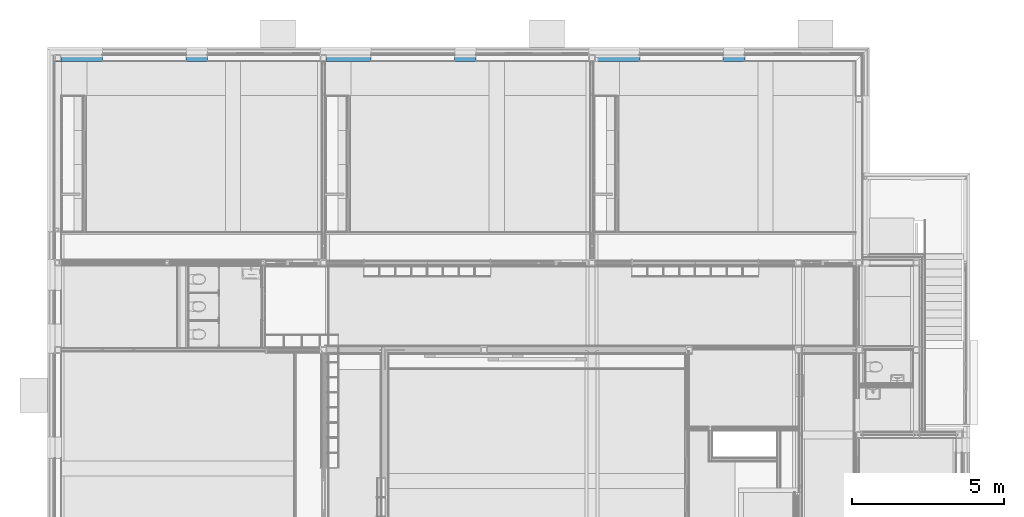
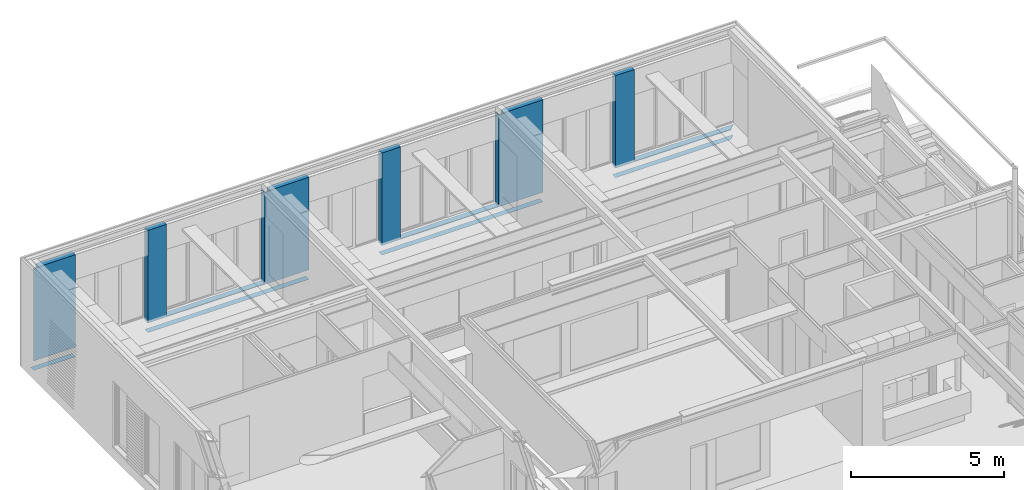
# One storey, part 86 of 165: 1 building element part, 11 openings, 1 element without a shape of its own.
"""IFC2X3 building model written with IfcOpenShell, lengths in millimetres."""

from ifc_helpers import new_model, entity, si_unit, converted_unit, derived_unit, money_unit, direction, frame, origin_with_axes, place, context, subcontext, project, spatial, faceted_brep, material, type_object, element, aggregate, save


model = new_model("IFC2X3")

# Units and contexts
model_context = context("Model", 3, precision=0.01, world=origin_with_axes(), true_north=direction((0.0, 1.0)))
body_context = subcontext(model_context, "Body", "Model", "MODEL_VIEW")
ifc_project = project(units=[si_unit("LENGTHUNIT", "METRE", prefix="MILLI"), si_unit("AREAUNIT", "SQUARE_METRE"), si_unit("VOLUMEUNIT", "CUBIC_METRE"), converted_unit("PLANEANGLEUNIT", "DEGREE", entity("IfcPlaneAngleMeasure", 0.0174532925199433), si_unit("PLANEANGLEUNIT", "RADIAN"), dimensions=[0, 0, 0, 0, 0, 0, 0]), money_unit("EUR"), converted_unit("TIMEUNIT", "Year", entity("IfcTimeMeasure", 31556926.0), si_unit("TIMEUNIT", "SECOND"), dimensions=[0, 0, 1, 0, 0, 0, 0]), si_unit("MASSUNIT", "GRAM", prefix="KILO"), si_unit("THERMODYNAMICTEMPERATUREUNIT", "DEGREE_CELSIUS"), si_unit("LUMINOUSINTENSITYUNIT", "LUMEN"), si_unit("ENERGYUNIT", "JOULE", prefix="MEGA"), derived_unit("THERMALCONDUCTANCEUNIT", [(si_unit("POWERUNIT", "WATT"), 1), (si_unit("LENGTHUNIT", "METRE"), -1), (si_unit("THERMODYNAMICTEMPERATUREUNIT", "KELVIN"), -1)]), derived_unit("SPECIFICHEATCAPACITYUNIT", [(si_unit("ENERGYUNIT", "JOULE"), 1), (si_unit("MASSUNIT", "GRAM", prefix="KILO"), -1), (si_unit("THERMODYNAMICTEMPERATUREUNIT", "KELVIN"), -1)]), derived_unit("MASSDENSITYUNIT", [(si_unit("MASSUNIT", "GRAM", prefix="KILO"), 1), (si_unit("VOLUMEUNIT", "CUBIC_METRE"), -1)])], contexts=[model_context])

# Site, building, storey
site_placement = place(None, origin_with_axes())
site = spatial("IfcSite", under=ifc_project, at=site_placement, Name="Site", CompositionType="ELEMENT")
building_placement = place(site_placement, origin_with_axes())
building = spatial("IfcBuilding", under=site, at=building_placement, Name="Naam gebouw", CompositionType="ELEMENT")
storey_placement = place(building_placement, origin_with_axes())
storey = spatial("IfcBuildingStorey", under=building, at=storey_placement, Name="Begane grond", CompositionType="ELEMENT", Elevation=0.0)

# Wall, openings, building element part
wall_type = type_object("IfcWallType", Name="21 Buitenwand spouwmuur 464", PredefinedType="NOTDEFINED")
wall_placement = place(storey_placement, frame((0.0, 29175.0, -485.0), z_axis=(0.0, 0.0, 1.0), x_axis=(1.0, 0.0, 0.0)))
wall = element("IfcWall", 1, at=wall_placement, inside=storey, type_object=wall_type, Name="21_Wand-x")
opening_1_placement = place(wall_placement, frame((24792.49942456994, 0.0, 415.0000443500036), z_axis=(0.0, 0.0, 1.0), x_axis=(1.0, 0.0, 0.0)))
element("IfcOpeningElement", 2, at=opening_1_placement, cuts=wall, Name="_Merk AB2", context=body_context, shape_type="Brep", body=[
    faceted_brep([(-2057.500000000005, 0.0, 2679.999942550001), (1807.500575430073, 0.0, 2679.999942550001), (2057.499999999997, 249.9994245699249, 2679.999942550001), (2057.499999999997, 251.0000000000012, 2679.999942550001), (-2057.500000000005, 251.0000000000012, 2679.999942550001), (-2057.500000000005, 0.0, 3669.999953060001), (1807.500575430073, 0.0, 3669.999953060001), (1592.500575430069, -214.9999999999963, 3669.999953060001), (1592.500575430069, -214.9999999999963, 2679.999942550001), (1592.500575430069, -214.9999999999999, 0.0), (2057.499999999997, 249.9994245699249, 0.0), (2057.499999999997, 251.0000000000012, 0.0), (-2057.500000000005, 251.0000000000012, 0.0), (-2057.500000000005, -214.9999999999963, 2679.999942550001), (-2057.500000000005, -214.9999999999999, 0.0), (-2057.500000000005, -214.9999999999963, 3669.999953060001)], [[[0, 1, 2, 3, 4]], [[1, 0, 5, 6]], [[2, 1, 6, 7, 8, 9, 10]], [[10, 11, 3, 2]], [[12, 4, 3, 11]], [[13, 0, 4, 12, 14]], [[0, 13, 15, 5]], [[6, 5, 15, 7]], [[13, 8, 7, 15]], [[8, 13, 14, 9]], [[9, 14, 12, 11, 10]]]),
])
opening_2_placement = place(wall_placement, frame((11799.99942456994, 0.0, 475.0), z_axis=(0.0, 0.0, 1.0), x_axis=(1.0, 0.0, 0.0)))
element("IfcOpeningElement", 3, at=opening_2_placement, cuts=wall, Name="_Merk AF", context=body_context, shape_type="Brep", body=[
    faceted_brep([(1375.0, 0.0, -60.00000000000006), (1375.0, 0.0, 2620.0), (1375.0, 0.0, 3620.0), (1375.0, -214.9999999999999, 3620.0), (1375.0, -214.9999999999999, -1060.0), (1375.0, 0.0, -1060.0), (1375.0, 71.99999999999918, -60.00000000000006), (1375.0, 71.99999999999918, 2620.0), (-1375.0, 0.0, 2620.0), (-1375.0, 0.0, 3620.0), (-1375.0, -214.9999999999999, 3620.0), (-1375.0, -214.9999999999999, -1060.0), (-1375.0, 0.0, -1060.0), (-1375.0, 0.0, -60.00000000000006), (-1375.0, 71.99999999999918, -60.00000000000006), (1385.0, 71.99999999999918, -60.00000000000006), (1385.0, 71.99999999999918, 2620.0), (-1375.0, 71.99999999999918, 2620.0), (-1385.0, 71.99999999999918, -60.00000000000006), (-1385.0, 251.0000000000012, -60.00000000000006), (1385.0, 251.0000000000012, -60.00000000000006), (1385.0, 251.0000000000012, 2620.0), (-1385.0, 251.0000000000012, 2620.0), (-1385.0, 71.99999999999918, 2620.0)], [[[0, 1, 2, 3, 4, 5]], [[1, 0, 6, 7]], [[1, 8, 9, 2]], [[2, 9, 10, 3]], [[10, 11, 4, 3]], [[12, 5, 4, 11]], [[13, 0, 5, 12]], [[0, 13, 14, 6]], [[7, 6, 15, 16]], [[8, 1, 7, 17]], [[8, 13, 12, 11, 10, 9]], [[13, 8, 17, 14]], [[6, 14, 18, 19, 20, 15]], [[16, 15, 20, 21]], [[17, 7, 16, 21, 22, 23]], [[14, 17, 23, 18]], [[18, 23, 22, 19]], [[21, 20, 19, 22]]]),
])
opening_3_placement = place(wall_placement, frame((2950.000000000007, 0.0, 475.0), z_axis=(0.0, 0.0, 1.0), x_axis=(1.0, 0.0, 0.0)))
element("IfcOpeningElement", 4, at=opening_3_placement, cuts=wall, Name="_Merk AF", context=body_context, shape_type="Brep", body=[
    faceted_brep([(1375.0, 0.0, -60.00000000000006), (1375.0, 0.0, 2620.0), (1375.0, 0.0, 3620.0), (1375.0, -214.9999999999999, 3620.0), (1375.0, -214.9999999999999, -1060.0), (1375.0, 0.0, -1060.0), (1375.0, 71.99999999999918, -60.00000000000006), (1375.0, 71.99999999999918, 2620.0), (-1375.0, 0.0, 2620.0), (-1375.0, 0.0, 3620.0), (-1375.0, -214.9999999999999, 3620.0), (-1375.0, -214.9999999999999, -1060.0), (-1375.0, 0.0, -1060.0), (-1375.0, 0.0, -60.00000000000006), (-1375.0, 71.99999999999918, -60.00000000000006), (1385.0, 71.99999999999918, -60.00000000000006), (1385.0, 71.99999999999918, 2620.0), (-1375.0, 71.99999999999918, 2620.0), (-1385.0, 71.99999999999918, -60.00000000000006), (-1385.0, 251.0000000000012, -60.00000000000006), (1385.0, 251.0000000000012, -60.00000000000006), (1385.0, 251.0000000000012, 2620.0), (-1385.0, 251.0000000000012, 2620.0), (-1385.0, 71.99999999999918, 2620.0)], [[[0, 1, 2, 3, 4, 5]], [[1, 0, 6, 7]], [[1, 8, 9, 2]], [[2, 9, 10, 3]], [[10, 11, 4, 3]], [[12, 5, 4, 11]], [[13, 0, 5, 12]], [[0, 13, 14, 6]], [[7, 6, 15, 16]], [[8, 1, 7, 17]], [[8, 13, 12, 11, 10, 9]], [[13, 8, 17, 14]], [[6, 14, 18, 19, 20, 15]], [[16, 15, 20, 21]], [[17, 7, 16, 21, 22, 23]], [[14, 17, 23, 18]], [[18, 23, 22, 19]], [[21, 20, 19, 22]]]),
])
opening_4_placement = place(wall_placement, frame((15734.99942456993, 0.0, 415.0000000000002), z_axis=(0.0, 0.0, 1.0), x_axis=(1.0, 0.0, 0.0)))
element("IfcOpeningElement", 5, at=opening_4_placement, cuts=wall, Name="_Merk AA", context=body_context, shape_type="Brep", body=[
    faceted_brep([(-1850.000000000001, 0.0, 2679.999942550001), (1850.000000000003, 0.0, 2679.999942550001), (1850.000000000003, 251.0000000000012, 2679.999942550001), (-1850.000000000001, 251.0000000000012, 2679.999942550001), (-1850.000000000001, 0.0, 3669.999942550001), (1850.000000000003, 0.0, 3669.999942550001), (1850.000000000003, -214.9999999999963, 2679.999942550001), (1850.000000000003, -214.9999999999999, 0.0), (1850.000000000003, 251.0000000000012, 0.0), (1850.000000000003, -214.9999999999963, 3669.999942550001), (-1850.000000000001, 251.0000000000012, 0.0), (-1850.000000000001, -214.9999999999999, 0.0), (-1850.000000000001, -214.9999999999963, 2679.999942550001), (-1850.000000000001, -214.9999999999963, 3669.999942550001)], [[[0, 1, 2, 3]], [[1, 0, 4, 5]], [[6, 7, 8, 2, 1, 5, 9]], [[10, 3, 2, 8]], [[0, 3, 10, 11, 12, 13, 4]], [[5, 4, 13, 9]], [[6, 12, 11, 7]], [[7, 11, 10, 8]], [[12, 6, 9, 13]]]),
])
opening_5_placement = place(wall_placement, frame((6885.000000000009, 0.0, 415.0), z_axis=(0.0, 0.0, 1.0), x_axis=(1.0, 0.0, 0.0)))
element("IfcOpeningElement", 6, at=opening_5_placement, cuts=wall, Name="_Merk AA", context=body_context, shape_type="Brep", body=[
    faceted_brep([(-1850.000000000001, 0.0, 2679.999942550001), (1850.000000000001, 0.0, 2679.999942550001), (1850.000000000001, 251.0000000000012, 2679.999942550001), (-1850.000000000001, 251.0000000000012, 2679.999942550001), (-1850.000000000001, 0.0, 3669.999942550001), (1850.000000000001, 0.0, 3669.999942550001), (1850.000000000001, -214.9999999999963, 2679.999942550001), (1850.000000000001, -214.9999999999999, 0.0), (1850.000000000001, 251.0000000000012, 0.0), (1850.000000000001, -214.9999999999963, 3669.999942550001), (-1850.000000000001, 251.0000000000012, 0.0), (-1850.000000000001, -214.9999999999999, 0.0), (-1850.000000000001, -214.9999999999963, 2679.999942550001), (-1850.000000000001, -214.9999999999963, 3669.999942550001)], [[[0, 1, 2, 3]], [[1, 0, 4, 5]], [[6, 7, 8, 2, 1, 5, 9]], [[10, 3, 2, 8]], [[0, 3, 10, 11, 12, 13, 4]], [[5, 4, 13, 9]], [[6, 12, 11, 7]], [[7, 11, 10, 8]], [[12, 6, 9, 13]]]),
])
opening_6_placement = place(wall_placement, frame((13934.99942456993, 0.0, 414.9999999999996), z_axis=(0.0, 0.0, 1.0), x_axis=(1.0, 0.0, 0.0)))
element("IfcOpeningElement", 7, at=opening_6_placement, cuts=wall, Name="_-", context=body_context, shape_type="Brep", body=[
    faceted_brep([(300.0000000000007, 0.0, 0.0), (300.0000000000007, 0.0, 2680.0), (300.0000000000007, 0.0, 3680.0), (300.0000000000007, -214.9999999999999, 3680.0), (300.0000000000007, -214.9999999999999, 0.0), (300.0000000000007, 71.99999999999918, 0.0), (300.0000000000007, 71.99999999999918, 2680.0), (-50.00000000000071, 0.0, 2680.0), (-50.00000000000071, 0.0, 3680.0), (-50.00000000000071, -214.9999999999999, 3680.0), (-50.00000000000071, -214.9999999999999, 0.0), (-50.00000000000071, 0.0, 0.0), (-50.00000000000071, 71.99999999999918, 0.0), (300.0000000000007, 251.0000000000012, 0.0), (300.0000000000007, 251.0000000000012, 2680.0), (-50.00000000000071, 71.99999999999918, 2680.0), (-60.0000000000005, 71.99999999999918, 0.0), (-60.0000000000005, 251.0000000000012, 0.0), (-60.0000000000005, 251.0000000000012, 2680.0), (-60.0000000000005, 71.99999999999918, 2680.0)], [[[0, 1, 2, 3, 4]], [[1, 0, 5, 6]], [[1, 7, 8, 2]], [[2, 8, 9, 3]], [[9, 10, 4, 3]], [[0, 4, 10, 11, 12, 5]], [[6, 5, 13, 14]], [[7, 1, 6, 15]], [[7, 11, 10, 9, 8]], [[11, 7, 15, 12]], [[5, 12, 16, 17, 13]], [[14, 13, 17, 18]], [[15, 6, 14, 18, 19]], [[12, 15, 19, 16]], [[16, 19, 18, 17]]]),
])
opening_7_placement = place(wall_placement, frame((17534.99942456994, 0.0, 414.9999999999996), z_axis=(0.0, 0.0, 1.0), x_axis=(1.0, 0.0, 0.0)))
element("IfcOpeningElement", 8, at=opening_7_placement, cuts=wall, Name="_-", context=body_context, shape_type="Brep", body=[
    faceted_brep([(50.00000000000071, 0.0, 0.0), (50.00000000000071, 0.0, 2680.0), (50.00000000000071, 0.0, 3680.0), (50.00000000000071, -214.9999999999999, 3680.0), (50.00000000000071, -214.9999999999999, 0.0), (50.00000000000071, 71.99999999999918, 0.0), (50.00000000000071, 71.99999999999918, 2680.0), (-300.0000000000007, 0.0, 2680.0), (-300.0000000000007, 0.0, 3680.0), (-300.0000000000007, -214.9999999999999, 3680.0), (-300.0000000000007, -214.9999999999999, 0.0), (-300.0000000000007, 0.0, 0.0), (-300.0000000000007, 71.99999999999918, 0.0), (59.99999999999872, 71.99999999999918, 0.0), (59.99999999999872, 71.99999999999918, 2680.0), (-300.0000000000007, 71.99999999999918, 2680.0), (-300.0000000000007, 251.0000000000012, 0.0), (59.99999999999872, 251.0000000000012, 0.0), (59.99999999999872, 251.0000000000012, 2680.0), (-300.0000000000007, 251.0000000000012, 2680.0)], [[[0, 1, 2, 3, 4]], [[1, 0, 5, 6]], [[1, 7, 8, 2]], [[2, 8, 9, 3]], [[9, 10, 4, 3]], [[0, 4, 10, 11, 12, 5]], [[6, 5, 13, 14]], [[7, 1, 6, 15]], [[7, 11, 10, 9, 8]], [[11, 7, 15, 12]], [[5, 12, 16, 17, 13]], [[14, 13, 17, 18]], [[15, 6, 14, 18, 19]], [[12, 15, 19, 16]], [[18, 17, 16, 19]]]),
])
opening_8_placement = place(wall_placement, frame((20649.99942456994, 0.0, 475.0), z_axis=(0.0, 0.0, 1.0), x_axis=(1.0, 0.0, 0.0)))
element("IfcOpeningElement", 9, at=opening_8_placement, cuts=wall, Name="_Merk AF", context=body_context, shape_type="Brep", body=[
    faceted_brep([(1375.0, 0.0, -60.00000000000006), (1375.0, 0.0, 2620.0), (1375.0, 0.0, 3620.0), (1375.0, -214.9999999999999, 3620.0), (1375.0, -214.9999999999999, -1060.0), (1375.0, 0.0, -1060.0), (1375.0, 71.99999999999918, -60.00000000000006), (1375.0, 71.99999999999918, 2620.0), (-1375.0, 0.0, 2620.0), (-1375.0, 0.0, 3620.0), (-1375.0, -214.9999999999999, 3620.0), (-1375.0, -214.9999999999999, -1060.0), (-1375.0, 0.0, -1060.0), (-1375.0, 0.0, -60.00000000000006), (-1375.0, 71.99999999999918, -60.00000000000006), (1385.000000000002, 71.99999999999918, -60.00000000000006), (1385.000000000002, 71.99999999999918, 2620.0), (-1375.0, 71.99999999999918, 2620.0), (-1385.000000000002, 71.99999999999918, -60.00000000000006), (-1385.000000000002, 251.0000000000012, -60.00000000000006), (1385.000000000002, 251.0000000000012, -60.00000000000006), (1385.000000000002, 251.0000000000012, 2620.0), (-1385.000000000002, 251.0000000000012, 2620.0), (-1385.000000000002, 71.99999999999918, 2620.0)], [[[0, 1, 2, 3, 4, 5]], [[1, 0, 6, 7]], [[1, 8, 9, 2]], [[2, 9, 10, 3]], [[10, 11, 4, 3]], [[12, 5, 4, 11]], [[13, 0, 5, 12]], [[0, 13, 14, 6]], [[7, 6, 15, 16]], [[8, 1, 7, 17]], [[8, 13, 12, 11, 10, 9]], [[13, 8, 17, 14]], [[6, 14, 18, 19, 20, 15]], [[16, 15, 20, 21]], [[17, 7, 16, 21, 22, 23]], [[14, 17, 23, 18]], [[18, 23, 22, 19]], [[21, 20, 19, 22]]]),
])
opening_9_placement = place(wall_placement, frame((8685.000000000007, 0.0, 414.9999999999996), z_axis=(0.0, 0.0, 1.0), x_axis=(1.0, 0.0, 0.0)))
element("IfcOpeningElement", 10, at=opening_9_placement, cuts=wall, Name="_-", context=body_context, shape_type="Brep", body=[
    faceted_brep([(50.00000000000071, 0.0, 0.0), (50.00000000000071, 0.0, 2680.0), (50.00000000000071, 0.0, 3680.0), (50.00000000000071, -214.9999999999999, 3680.0), (50.00000000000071, -214.9999999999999, 0.0), (50.00000000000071, 71.99999999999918, 0.0), (50.00000000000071, 71.99999999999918, 2680.0), (-300.0000000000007, 0.0, 2680.0), (-300.0000000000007, 0.0, 3680.0), (-300.0000000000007, -214.9999999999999, 3680.0), (-300.0000000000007, -214.9999999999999, 0.0), (-300.0000000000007, 0.0, 0.0), (-300.0000000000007, 71.99999999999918, 0.0), (60.0000000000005, 71.99999999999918, 0.0), (60.0000000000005, 71.99999999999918, 2680.0), (-300.0000000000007, 71.99999999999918, 2680.0), (-300.0000000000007, 251.0000000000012, 0.0), (60.0000000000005, 251.0000000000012, 0.0), (60.0000000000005, 251.0000000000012, 2680.0), (-300.0000000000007, 251.0000000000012, 2680.0)], [[[0, 1, 2, 3, 4]], [[1, 0, 5, 6]], [[1, 7, 8, 2]], [[2, 8, 9, 3]], [[9, 10, 4, 3]], [[0, 4, 10, 11, 12, 5]], [[6, 5, 13, 14]], [[7, 1, 6, 15]], [[7, 11, 10, 9, 8]], [[11, 7, 15, 12]], [[5, 12, 16, 17, 13]], [[14, 13, 17, 18]], [[15, 6, 14, 18, 19]], [[12, 15, 19, 16]], [[18, 17, 16, 19]]]),
])
opening_10_placement = place(wall_placement, frame((5085.000000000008, 0.0, 414.9999999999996), z_axis=(0.0, 0.0, 1.0), x_axis=(1.0, 0.0, 0.0)))
element("IfcOpeningElement", 11, at=opening_10_placement, cuts=wall, Name="_-", context=body_context, shape_type="Brep", body=[
    faceted_brep([(299.9999999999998, 0.0, 0.0), (299.9999999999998, 0.0, 2680.0), (299.9999999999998, 0.0, 3680.0), (299.9999999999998, -214.9999999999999, 3680.0), (299.9999999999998, -214.9999999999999, 0.0), (299.9999999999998, 71.99999999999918, 0.0), (299.9999999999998, 71.99999999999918, 2680.0), (-49.99999999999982, 0.0, 2680.0), (-49.99999999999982, 0.0, 3680.0), (-49.99999999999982, -214.9999999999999, 3680.0), (-49.99999999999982, -214.9999999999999, 0.0), (-49.99999999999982, 0.0, 0.0), (-49.99999999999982, 71.99999999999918, 0.0), (299.9999999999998, 251.0000000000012, 0.0), (299.9999999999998, 251.0000000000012, 2680.0), (-49.99999999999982, 71.99999999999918, 2680.0), (-59.99999999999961, 71.99999999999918, 0.0), (-59.99999999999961, 251.0000000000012, 0.0), (-59.99999999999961, 251.0000000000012, 2680.0), (-59.99999999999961, 71.99999999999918, 2680.0)], [[[0, 1, 2, 3, 4]], [[1, 0, 5, 6]], [[1, 7, 8, 2]], [[2, 8, 9, 3]], [[9, 10, 4, 3]], [[0, 4, 10, 11, 12, 5]], [[6, 5, 13, 14]], [[7, 1, 6, 15]], [[7, 11, 10, 9, 8]], [[11, 7, 15, 12]], [[5, 12, 16, 17, 13]], [[14, 13, 17, 18]], [[15, 6, 14, 18, 19]], [[12, 15, 19, 16]], [[16, 19, 18, 17]]]),
])
opening_11_placement = place(wall_placement, frame((22784.99942456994, 0.0, 414.9999999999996), z_axis=(0.0, 0.0, 1.0), x_axis=(1.0, 0.0, 0.0)))
element("IfcOpeningElement", 12, at=opening_11_placement, cuts=wall, Name="_-", context=body_context, shape_type="Brep", body=[
    faceted_brep([(300.0000000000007, 0.0, 0.0), (300.0000000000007, 0.0, 2680.0), (300.0000000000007, 0.0, 3680.0), (300.0000000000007, -214.9999999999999, 3680.0), (300.0000000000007, -214.9999999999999, 0.0), (300.0000000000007, 71.99999999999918, 0.0), (300.0000000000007, 71.99999999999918, 2680.0), (-50.00000000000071, 0.0, 2680.0), (-50.00000000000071, 0.0, 3680.0), (-50.00000000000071, -214.9999999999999, 3680.0), (-50.00000000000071, -214.9999999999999, 0.0), (-50.00000000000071, 0.0, 0.0), (-50.00000000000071, 71.99999999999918, 0.0), (300.0000000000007, 251.0000000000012, 0.0), (300.0000000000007, 251.0000000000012, 2680.0), (-50.00000000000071, 71.99999999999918, 2680.0), (-59.99999999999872, 71.99999999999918, 0.0), (-59.99999999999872, 251.0000000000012, 0.0), (-59.99999999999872, 251.0000000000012, 2680.0), (-59.99999999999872, 71.99999999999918, 2680.0)], [[[0, 1, 2, 3, 4]], [[1, 0, 5, 6]], [[1, 7, 8, 2]], [[2, 8, 9, 3]], [[9, 10, 4, 3]], [[0, 4, 10, 11, 12, 5]], [[6, 5, 13, 14]], [[7, 1, 6, 15]], [[7, 11, 10, 9, 8]], [[11, 7, 15, 12]], [[5, 12, 16, 17, 13]], [[14, 13, 17, 18]], [[15, 6, 14, 18, 19]], [[12, 15, 19, 16]], [[16, 19, 18, 17]]]),
])
ifc_material = material(Name="Steen - Kalkzandsteen C")
building_element_part_placement = place(wall_placement, origin_with_axes())
building_element_part = element("IfcBuildingElementPart", 13, at=building_element_part_placement, material=ifc_material, Name="Steen - Kalkzandsteen C", context=body_context, shape_type="Brep", body=[
    faceted_brep([(13174.99942456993, 0.0, 5.000000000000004), (17599.99942456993, 0.0, 5.000000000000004), (17799.99942456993, 0.0, 5.000000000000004), (19274.99942456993, 0.0, 5.000000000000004), (19274.99942456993, 0.0, 0.0), (13174.99942456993, 0.0, 0.0), (19274.99942456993, -213.9999999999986, 5.000000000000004), (17799.99942456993, -200.0000000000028, 5.000000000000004), (17599.99942456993, -200.0000000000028, 5.000000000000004), (13174.99942456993, -213.9999999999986, 5.000000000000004), (19274.99942456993, -213.9999999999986, 0.0), (13174.99942456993, -213.9999999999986, 0.0)], [[[0, 1, 2, 3, 4, 5]], [[6, 3, 2, 7, 8, 1, 0, 9]], [[7, 2, 1, 8]], [[3, 6, 10, 4]], [[11, 5, 4, 10]], [[9, 0, 5, 11]], [[6, 9, 11, 10]]]),
    faceted_brep([(22024.99942456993, 0.0, 5.000000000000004), (26600.0, 0.0, 5.000000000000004), (26600.0, 0.0, 0.0), (22024.99942456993, 0.0, 0.0), (26386.0, -213.9999999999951, 5.000000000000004), (22024.99942456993, -213.9999999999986, 5.000000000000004), (26386.0, -213.9999999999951, 0.0), (22024.99942456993, -213.9999999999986, 0.0)], [[[0, 1, 2, 3]], [[4, 1, 0, 5]], [[1, 4, 6, 2]], [[3, 2, 6, 7]], [[5, 0, 3, 7]], [[4, 5, 7, 6]]]),
    faceted_brep([(199.999999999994, 0.0, 5.000000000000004), (1575.000000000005, 0.0, 5.000000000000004), (1575.000000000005, 0.0, 0.0), (0.0, 0.0, 0.0), (0.0, 0.0, 5.000000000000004), (1575.000000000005, -213.9999999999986, 5.000000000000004), (199.9999999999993, -200.0000000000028, 5.000000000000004), (0.0, -200.0000000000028, 5.000000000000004), (0.0, -213.9999999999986, 5.000000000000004), (1575.000000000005, -213.9999999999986, 0.0), (0.0, -213.9999999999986, 0.0)], [[[0, 1, 2, 3, 4]], [[5, 1, 0, 6, 7, 8]], [[1, 5, 9, 2]], [[2, 9, 10, 3]], [[8, 7, 4, 3, 10]], [[6, 0, 4, 7]], [[5, 8, 10, 9]]]),
    faceted_brep([(4325.000000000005, 0.0, 5.000000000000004), (8750.000000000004, 0.0, 5.000000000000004), (8950.000000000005, 0.0, 5.000000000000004), (10424.99942456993, 0.0, 5.000000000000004), (10424.99942456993, 0.0, 0.0), (4325.000000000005, 0.0, 0.0), (10424.99942456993, -213.9999999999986, 5.000000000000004), (8950.000000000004, -200.0000000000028, 5.000000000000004), (8750.000000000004, -200.0000000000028, 5.000000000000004), (4325.000000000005, -213.9999999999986, 5.000000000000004), (10424.99942456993, -213.9999999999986, 0.0), (4325.000000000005, -213.9999999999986, 0.0)], [[[0, 1, 2, 3, 4, 5]], [[6, 3, 2, 7, 8, 1, 0, 9]], [[7, 2, 1, 8]], [[3, 6, 10, 4]], [[4, 10, 11, 5]], [[9, 0, 5, 11]], [[6, 9, 11, 10]]]),
    faceted_brep([(19274.99942456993, -213.9999999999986, 384.9999999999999), (19274.99942456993, 0.0, 384.9999999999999), (19274.99942456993, 0.0, 4084.999999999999), (19274.99942456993, -213.9999999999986, 4085.0), (17799.99942456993, 0.0, 384.9999999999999), (13174.99942456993, -213.9999999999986, 384.9999999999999), (13174.99942456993, 0.0, 384.9999999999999), (17599.99942456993, 0.0, 384.9999999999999), (17599.99942456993, -200.0000000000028, 384.9999999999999), (17799.99942456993, -200.0000000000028, 384.9999999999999), (17799.99942456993, 0.0, 4060.000002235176), (17899.99942456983, 0.0, 4060.000002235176), (17899.99942456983, 0.0, 4080.000002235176), (17802.99942456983, 0.0, 4080.000002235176), (17802.99942456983, 0.0, 4084.999999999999), (17802.99942456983, -213.9999999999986, 4085.0), (17802.99942456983, -213.9999999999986, 4080.000002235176), (17899.99942456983, -213.9999999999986, 4080.000002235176), (17899.99942456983, -213.9999999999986, 4060.000002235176), (17584.99942456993, -213.9999999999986, 4060.000002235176), (17584.99942456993, -213.9999999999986, 415.0000000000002), (13884.99942456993, -213.9999999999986, 415.0000000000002), (13884.99942456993, -213.9999999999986, 4084.999942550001), (13174.99942456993, -213.9999999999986, 4085.0), (13174.99942456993, 0.0, 4084.999999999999), (13884.99942456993, 0.0, 4084.999942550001), (13884.99942456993, 0.0, 415.0000000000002), (17584.99942456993, 0.0, 415.0000000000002), (17584.99942456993, 0.0, 4060.000002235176), (17599.99942456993, 0.0, 4060.000002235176), (17599.99942456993, -200.0000000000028, 4060.000002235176), (17799.99942456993, -200.0000000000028, 4060.000002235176)], [[[0, 1, 2, 3]], [[4, 1, 0, 5, 6, 7, 8, 9]], [[1, 4, 10, 11, 12, 13, 14, 2]], [[2, 14, 15, 3]], [[5, 0, 3, 15, 16, 17, 18, 19, 20, 21, 22, 23]], [[6, 5, 23, 24]], [[7, 6, 24, 25, 26, 27, 28, 29]], [[8, 7, 29, 30]], [[9, 8, 30, 31]], [[4, 9, 31, 10]], [[28, 19, 18, 11, 10, 31, 30, 29]], [[11, 18, 17, 12]], [[12, 17, 16, 13]], [[13, 16, 15, 14]], [[19, 28, 27, 20]], [[26, 21, 20, 27]], [[25, 22, 21, 26]], [[22, 25, 24, 23]]]),
    faceted_brep([(26386.0, -213.9999999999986, 384.9999999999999), (26600.0, 0.0, 384.9999999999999), (26599.99987278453, 0.0001272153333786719, 415.0000443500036), (26386.0, -213.9999999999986, 415.0000443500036), (22024.99942456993, 0.0, 384.9999999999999), (22024.99942456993, -213.9999999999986, 384.9999999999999), (22024.99942456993, 0.0, 4084.999999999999), (22734.99942456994, 0.0, 4084.999999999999), (22734.99942456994, 0.0, 414.9999999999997), (23084.99942456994, 0.0, 415.0000443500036), (23084.99942456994, -213.9999999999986, 415.0000443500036), (22734.99942456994, -213.9999999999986, 414.9999999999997), (22734.99942456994, -213.9999999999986, 4085.0), (22024.99942456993, -213.9999999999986, 4085.0)], [[[0, 1, 2, 3]], [[4, 1, 0, 5]], [[1, 4, 6, 7, 8, 9, 2]], [[10, 3, 2, 9]], [[5, 0, 3, 10, 11, 12, 13]], [[4, 5, 13, 6]], [[6, 13, 12, 7]], [[12, 11, 8, 7]], [[11, 10, 9, 8]]]),
    faceted_brep([(1575.000000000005, -213.9999999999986, 384.9999999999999), (1575.000000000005, 0.0, 384.9999999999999), (1575.000000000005, 0.0, 4084.999999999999), (1575.000000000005, -213.9999999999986, 4085.0), (199.9999999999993, 0.0, 384.9999999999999), (0.0, -213.9999999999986, 384.9999999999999), (0.0, -200.0000000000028, 384.9999999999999), (199.9999999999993, -200.0000000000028, 384.9999999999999), (199.9999999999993, 0.0, 4064.999999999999), (304.000004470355, 0.0, 4064.999999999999), (304.000004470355, 0.0, 4079.999999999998), (201.0000000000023, 0.0, 4079.999999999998), (201.0000000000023, 0.0, 4084.999999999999), (201.0000000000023, -213.9999999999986, 4085.0), (201.0000000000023, -213.9999999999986, 4079.999999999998), (304.000004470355, -213.9999999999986, 4079.999999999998), (304.000004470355, -213.9999999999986, 4064.999999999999), (0.0, -213.9999999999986, 4064.999999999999), (0.0, -200.0000000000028, 4064.999999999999), (199.9999999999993, -200.0000000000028, 4064.999999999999)], [[[0, 1, 2, 3]], [[4, 1, 0, 5, 6, 7]], [[1, 4, 8, 9, 10, 11, 12, 2]], [[3, 2, 12, 13]], [[5, 0, 3, 13, 14, 15, 16, 17]], [[6, 5, 17, 18]], [[7, 6, 18, 19]], [[4, 7, 19, 8]], [[16, 9, 8, 19, 18, 17]], [[16, 15, 10, 9]], [[15, 14, 11, 10]], [[14, 13, 12, 11]]]),
    faceted_brep([(10424.99942456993, -213.9999999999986, 384.9999999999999), (10424.99942456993, 0.0, 384.9999999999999), (10424.99942456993, 0.0, 4084.999999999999), (10424.99942456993, -213.9999999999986, 4085.0), (8950.000000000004, 0.0, 384.9999999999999), (4325.000000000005, -213.9999999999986, 384.9999999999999), (4325.000000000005, 0.0, 384.9999999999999), (8750.000000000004, 0.0, 384.9999999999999), (8750.000000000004, -200.0000000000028, 384.9999999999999), (8950.000000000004, -200.0000000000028, 384.9999999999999), (8950.000000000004, 0.0, 4055.000002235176), (9050.0, 0.0, 4055.000002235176), (9050.0, 0.0, 4080.000002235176), (8953.000000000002, 0.0, 4080.000002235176), (8953.000000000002, 0.0, 4084.999999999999), (8952.999999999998, -213.9999999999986, 4085.0), (8953.000000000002, -213.9999999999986, 4080.000002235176), (9050.0, -213.9999999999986, 4080.000002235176), (9050.0, -213.9999999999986, 4055.000002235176), (8735.00000000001, -213.9999999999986, 4055.000002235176), (8735.00000000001, -213.9999999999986, 414.9999999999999), (5035.000000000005, -213.9999999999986, 414.9999999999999), (5035.000000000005, -213.9999999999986, 4084.999942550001), (4325.000000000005, -213.9999999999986, 4085.0), (4325.000000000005, 0.0, 4084.999999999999), (5035.000000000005, 0.0, 4084.999942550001), (5035.000000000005, 0.0, 414.9999999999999), (8735.00000000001, 0.0, 414.9999999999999), (8735.00000000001, 0.0, 4055.000002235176), (8750.000000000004, 0.0, 4055.000002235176), (8750.000000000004, -200.0000000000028, 4055.000002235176), (8950.000000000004, -200.0000000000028, 4055.000002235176)], [[[0, 1, 2, 3]], [[4, 1, 0, 5, 6, 7, 8, 9]], [[1, 4, 10, 11, 12, 13, 14, 2]], [[15, 3, 2, 14]], [[5, 0, 3, 15, 16, 17, 18, 19, 20, 21, 22, 23]], [[6, 5, 23, 24]], [[7, 6, 24, 25, 26, 27, 28, 29]], [[8, 7, 29, 30]], [[9, 8, 30, 31]], [[4, 9, 31, 10]], [[10, 31, 30, 29, 28, 19, 18, 11]], [[12, 11, 18, 17]], [[13, 12, 17, 16]], [[14, 13, 16, 15]], [[19, 28, 27, 20]], [[26, 21, 20, 27]], [[25, 22, 21, 26]], [[22, 25, 24, 23]]]),
    faceted_brep([(8735.00000000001, 0.0, 4084.999942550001), (8747.000000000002, 0.0, 4084.999999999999), (8747.000000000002, 0.0, 4080.000002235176), (8735.00000000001, 0.0, 4080.000002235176), (8735.00000000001, -213.9999999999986, 4084.999942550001), (8746.999999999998, -213.9999999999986, 4085.0), (8747.000000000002, -213.9999999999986, 4080.000002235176), (8735.00000000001, -213.9999999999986, 4080.000002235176)], [[[0, 1, 2, 3]], [[4, 5, 1, 0]], [[1, 5, 6, 2]], [[3, 2, 6, 7]], [[0, 3, 7, 4]], [[7, 6, 5, 4]]]),
    faceted_brep([(17584.99942456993, 0.0, 4084.999942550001), (17596.99942456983, 0.0, 4084.999999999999), (17596.99942456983, 0.0, 4080.000002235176), (17584.99942456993, 0.0, 4080.000002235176), (17584.99942456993, -213.9999999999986, 4084.999942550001), (17596.99942456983, -213.9999999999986, 4085.0), (17596.99942456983, -213.9999999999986, 4080.000002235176), (17584.99942456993, -213.9999999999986, 4080.000002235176)], [[[0, 1, 2, 3]], [[4, 5, 1, 0]], [[5, 6, 2, 1]], [[3, 2, 6, 7]], [[0, 3, 7, 4]], [[7, 6, 5, 4]]]),
    faceted_brep([(17794.99942456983, -200.0000000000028, 4080.000002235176), (17794.99942456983, -200.0000000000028, 4084.999999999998), (17794.99942456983, -213.9999999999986, 4085.0), (17794.99942456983, -213.9999999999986, 4080.000002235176), (17604.99942456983, -200.0000000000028, 4084.999999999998), (17604.99942456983, -200.0000000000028, 4080.000002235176), (17604.99942456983, -213.9999999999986, 4085.0), (17604.99942456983, -213.9999999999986, 4080.000002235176)], [[[0, 1, 2, 3]], [[4, 1, 0, 5]], [[1, 4, 6, 2]], [[7, 3, 2, 6]], [[5, 0, 3, 7]], [[4, 5, 7, 6]]]),
    faceted_brep([(8945.000000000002, -200.0000000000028, 4080.000002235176), (8944.999999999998, -200.0000000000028, 4084.999999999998), (8944.999999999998, -213.9999999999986, 4085.0), (8945.000000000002, -213.9999999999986, 4080.000002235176), (8755.0, -200.0000000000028, 4084.999999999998), (8755.0, -200.0000000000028, 4080.000002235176), (8755.0, -213.9999999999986, 4085.0), (8755.0, -213.9999999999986, 4080.000002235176)], [[[0, 1, 2, 3]], [[4, 1, 0, 5]], [[1, 4, 6, 2]], [[7, 3, 2, 6]], [[5, 0, 3, 7]], [[4, 5, 7, 6]]]),
    faceted_brep([(195.000000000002, -200.0000000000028, 4079.999999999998), (195.000000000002, -200.0000000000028, 4084.999999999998), (195.000000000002, -213.9999999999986, 4085.0), (195.000000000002, -213.9999999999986, 4079.999999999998), (5.000000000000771, -200.0000000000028, 4084.999999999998), (5.000000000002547, -200.0000000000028, 4079.999999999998), (5.000000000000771, -213.9999999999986, 4085.0), (5.000000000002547, -213.9999999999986, 4079.999999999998)], [[[0, 1, 2, 3]], [[4, 1, 0, 5]], [[1, 4, 6, 2]], [[7, 3, 2, 6]], [[5, 0, 3, 7]], [[4, 5, 7, 6]]]),
])
aggregate(wall, [building_element_part])

save(model, "model.ifc")
